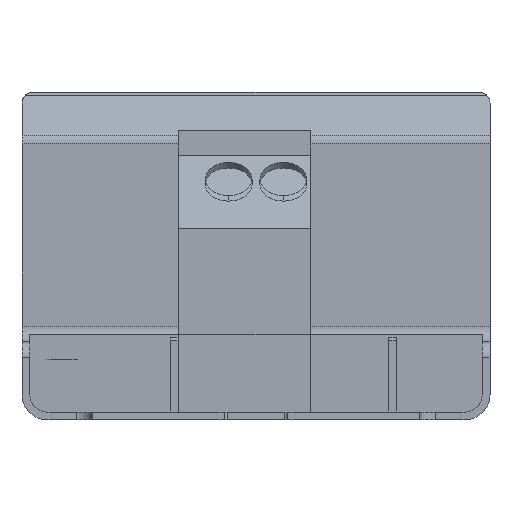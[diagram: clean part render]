
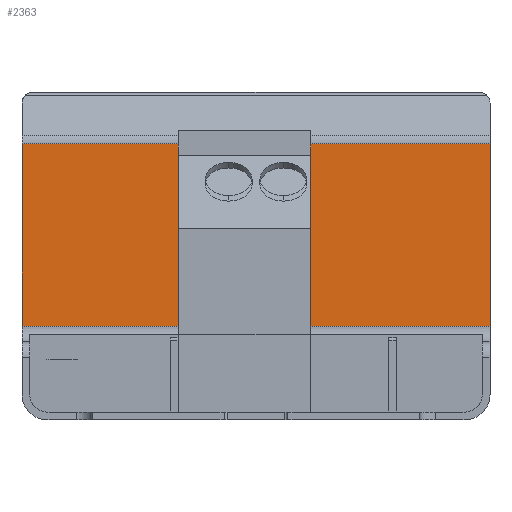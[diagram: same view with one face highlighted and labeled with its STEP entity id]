
A CAD part, front view. The second image highlights one B-rep face of the part: STEP entity #2363.
In plain terms, the highlighted planar face has unit normal (0, -1, 0).
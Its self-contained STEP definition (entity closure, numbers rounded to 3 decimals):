
#228=DIRECTION('',(1.,0.,0.));
#229=VECTOR('',#228,30.);
#230=CARTESIAN_POINT('',(-54.132,90.499,18.004));
#231=LINE('',#230,#229);
#600=DIRECTION('',(0.,0.,1.));
#601=VECTOR('',#600,11.71);
#602=CARTESIAN_POINT('',(-24.132,90.499,18.004));
#603=LINE('',#602,#601);
#856=DIRECTION('',(0.,0.,-1.));
#857=VECTOR('',#856,11.71);
#858=CARTESIAN_POINT('',(-54.132,90.499,29.714));
#859=LINE('',#858,#857);
#986=DIRECTION('',(-1.,0.,0.));
#987=VECTOR('',#986,30.);
#988=CARTESIAN_POINT('',(-24.132,90.499,29.714));
#989=LINE('',#988,#987);
#1685=CARTESIAN_POINT('',(-54.132,90.499,18.004));
#1686=VERTEX_POINT('',#1685);
#1687=CARTESIAN_POINT('',(-24.132,90.499,18.004));
#1688=VERTEX_POINT('',#1687);
#1749=CARTESIAN_POINT('',(-24.132,90.499,29.714));
#1750=VERTEX_POINT('',#1749);
#1770=CARTESIAN_POINT('',(-54.132,90.499,29.714));
#1771=VERTEX_POINT('',#1770);
#2352=CARTESIAN_POINT('',(-54.132,90.499,17.454));
#2353=DIRECTION('',(0.,-1.,0.));
#2354=DIRECTION('',(0.,0.,1.));
#2355=AXIS2_PLACEMENT_3D('',#2352,#2353,#2354);
#2356=PLANE('',#2355);
#2357=ORIENTED_EDGE('',*,*,#1933,.F.);
#2358=ORIENTED_EDGE('',*,*,#2256,.F.);
#2359=ORIENTED_EDGE('',*,*,#2344,.F.);
#2360=ORIENTED_EDGE('',*,*,#2133,.F.);
#2361=EDGE_LOOP('',(#2357,#2358,#2359,#2360));
#2362=FACE_OUTER_BOUND('',#2361,.F.);
#1933=EDGE_CURVE('',#1686,#1688,#231,.T.);
#2133=EDGE_CURVE('',#1688,#1750,#603,.T.);
#2256=EDGE_CURVE('',#1771,#1686,#859,.T.);
#2344=EDGE_CURVE('',#1750,#1771,#989,.T.);
#2363=ADVANCED_FACE('',(#2362),#2356,.T.);
